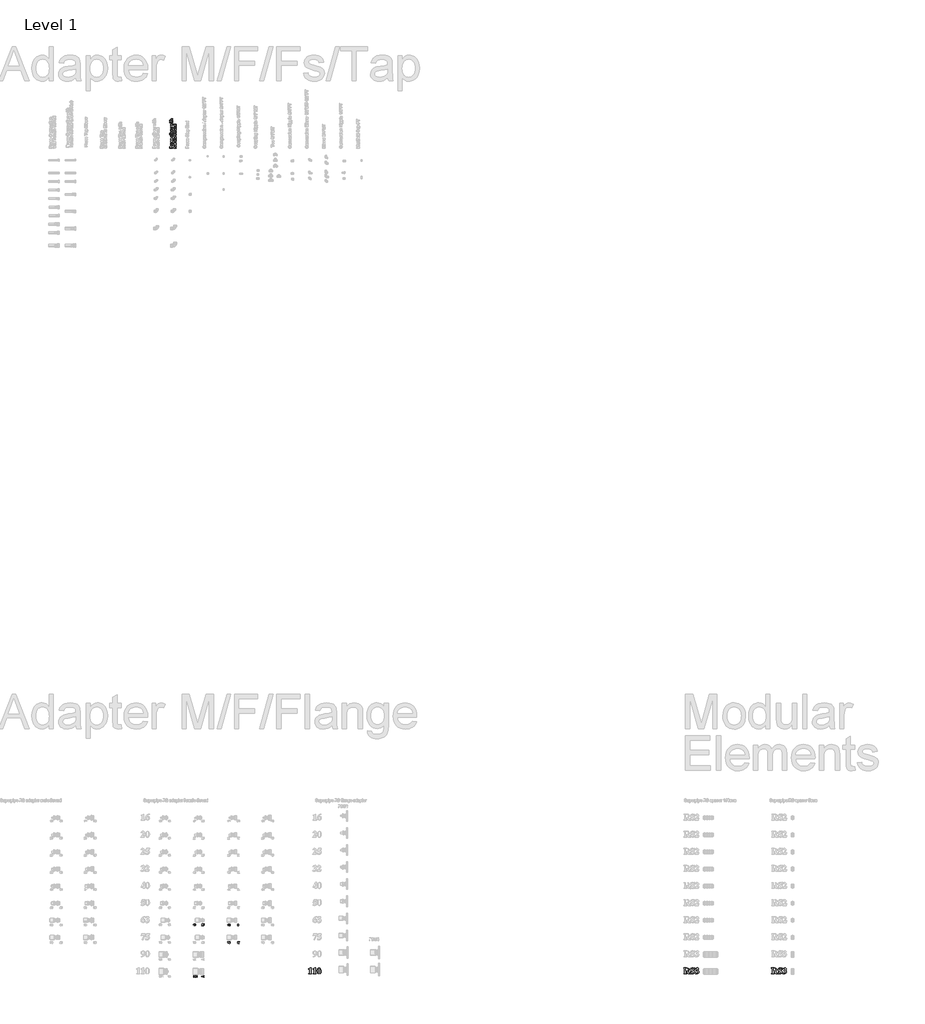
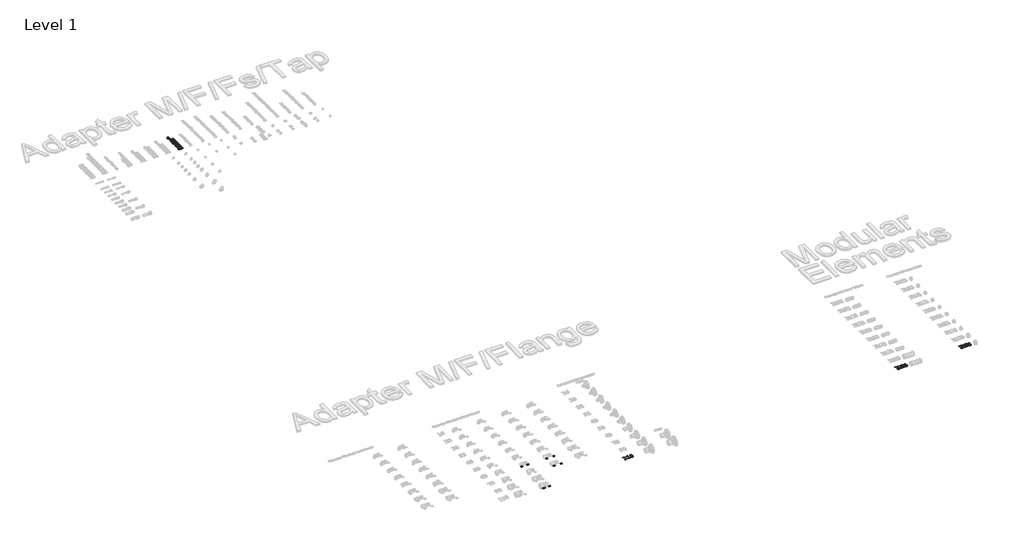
# One storey, part 45 of 57: 12 proxies.
"""IFC4 building model written with IfcOpenShell, lengths in millimetres."""

from ifc_helpers import new_model, si_unit, frame, origin, place, context, project, spatial, polyline, outline, extrude, element, save

model = new_model("IFC4")

# Units and contexts
model_context = context("Model", 3, world=origin())
ifc_project = project(units=[si_unit("LENGTHUNIT", "METRE", prefix="MILLI")], contexts=[model_context])

# Site, building, storey
site = spatial("IfcSite", under=ifc_project)
building = spatial("IfcBuilding", under=site)
storey = spatial("IfcBuildingStorey", under=building, Name="Level 1", Elevation=27.3876384)

# Proxies
placement = place(None, origin())
element("IfcBuildingElementProxy", 1, Name="100mm Arial", ObjectType="100mm Arial", at=placement, inside=storey, context=model_context, shape_type="SweptSolid", body=[
    extrude(outline(polyline([(34267.0644959, 16010.8916255), (34267.0644959, 15927.1351635), (34267.9233268, 15915.4387044), (34271.5358695, 15911.2945045), (34280.3422944, 15909.6859006), (34282.7688325, 15909.6859006), (34282.7688325, 15906.196048), (34226.9311912, 15906.196048), (34226.9311912, 15909.6859006), (34229.7394319, 15909.6859006), (34239.4455844, 15911.1581821), (34243.3580363, 15915.1933242), (34244.3804541, 15927.1351635), (34244.3804541, 15979.4829522), (34243.7261067, 15988.1394225), (34241.2995686, 15991.1248823), (34237.2098976, 15992.3790481), (34228.2398859, 15989.95251), (34226.9311912, 15993.4423626), (34264.5834288, 16010.8916255), (34267.0644959, 16010.8916255)])), frame((0.0, 0.0, 27.3876384), z_axis=(0.0, 0.0, 1.0), x_axis=(1.0, 0.0, 0.0)), (0.0, 0.0, 1.0), 2.0),
    extrude(outline(polyline([(34345.586179, 16010.8916255), (34345.586179, 15927.1351635), (34346.4450099, 15915.4387044), (34350.0575526, 15911.2945045), (34358.8639775, 15909.6859006), (34361.2905157, 15909.6859006), (34361.2905157, 15906.196048), (34305.4528743, 15906.196048), (34305.4528743, 15909.6859006), (34308.2611151, 15909.6859006), (34317.9672676, 15911.1581821), (34321.8797195, 15915.1933242), (34322.9021372, 15927.1351635), (34322.9021372, 15979.4829522), (34322.2477899, 15988.1394225), (34319.8212517, 15991.1248823), (34315.7315807, 15992.3790481), (34306.761569, 15989.95251), (34305.4528743, 15993.4423626), (34343.105112, 16010.8916255), (34345.586179, 16010.8916255)])), frame((0.0, 0.0, 27.3876384), z_axis=(0.0, 0.0, 1.0), x_axis=(1.0, 0.0, 0.0)), (0.0, 0.0, 1.0), 2.0),
    extrude(outline(polyline([(34446.791904, 15957.6713736), (34442.3477948, 15929.0982056), (34435.2317673, 15915.7658781), (34425.0893832, 15907.5047427), (34412.7385768, 15904.4511217), (34398.9563855, 15908.213619), (34388.0642284, 15919.0103504), (34382.0933088, 15932.6425871), (34378.7397786, 15956.4717368), (34383.5655903, 15987.0624758), (34388.554989, 15997.2491647), (34395.6164876, 16004.7434868), (34412.7385768, 16010.8916255), (34429.8742983, 16004.8252802), (34441.5843896, 15988.5074929), (34446.791904, 15957.6713736)]), holes=[polyline([(34424.1078622, 15957.6713736), (34423.753424, 15989.0255179), (34419.6364885, 16003.2303085), (34412.6840478, 16005.6568466), (34406.8494506, 16003.8301269), (34402.5416638, 15994.505677), (34401.4238204, 15947.8561632), (34403.1414822, 15918.6831767), (34406.8358183, 15911.498988), (34413.2020728, 15909.6859006), (34419.6364885, 15912.1124387), (34423.753424, 15925.1721214), (34424.1078622, 15957.6713736)])]), frame((0.0, 0.0, 27.3876384), z_axis=(0.0, 0.0, 1.0), x_axis=(1.0, 0.0, 0.0)), (0.0, 0.0, 1.0), 2.0),
])
element("IfcBuildingElementProxy", 2, Name="100mm Arial", ObjectType="100mm Arial", at=placement, inside=storey, context=model_context, shape_type="SweptSolid", body=[
    extrude(outline(polyline([(40858.2065597, 15953.3090579), (40858.2065597, 15923.6453109), (40859.2153452, 15914.034584), (40862.7460945, 15910.8719051), (40872.16597, 15909.6859006), (40872.16597, 15906.196048), (40819.8181813, 15906.196048), (40819.8181813, 15909.6859006), (40829.2789535, 15910.8991696), (40832.7688061, 15914.0618485), (40833.7775916, 15923.6453109), (40833.7775916, 15991.6974363), (40832.7688061, 16001.3081631), (40829.2380568, 16004.470842), (40819.8181813, 16005.6568466), (40819.8181813, 16009.1466992), (40867.3946872, 16009.1466992), (40894.5637349, 16006.6111032), (40908.6049386, 15997.2457566), (40914.044201, 15981.2278785), (40912.1288718, 15970.9968849), (40906.382884, 15962.7153011), (40892.6961184, 15955.7628605), (40917.1250865, 15920.946128), (40923.314122, 15912.3305545), (40929.7485377, 15909.6859006), (40929.7485377, 15906.196048), (40898.0126907, 15906.196048), (40864.9681491, 15953.3090579), (40858.2065597, 15953.3090579)]), holes=[polyline([(40858.2065597, 16003.9119203), (40858.2065597, 15958.5438367), (40862.541611, 15958.5438367), (40878.3686377, 15960.4932466), (40886.6161409, 15967.5138484), (40889.615233, 15980.7643825), (40888.2383771, 15991.0533131), (40884.1078094, 15998.2545421), (40876.9099884, 16002.4975758), (40866.3313728, 16003.9119203), (40858.2065597, 16003.9119203)])]), frame((0.0, 0.0, 27.3876384), z_axis=(0.0, 0.0, 1.0), x_axis=(1.0, 0.0, 0.0)), (0.0, 0.0, 1.0), 2.0),
    extrude(outline(polyline([(41004.7803682, 16010.8916255), (41004.7803682, 15975.9930996), (41001.2905157, 15975.9930996), (40997.275822, 15988.0678533), (40989.8667013, 15997.5184013), (40980.3854807, 16003.6222353), (40970.1544871, 16005.6568466), (40957.2038623, 16001.5535434), (40952.4325795, 15992.1064034), (40954.1775058, 15986.0809548), (40961.8933517, 15979.0739851), (40979.8879041, 15970.2402958), (40996.0012078, 15961.6792512), (41004.8621617, 15953.6089671), (41010.0151471, 15935.6962081), (41007.4863672, 15923.7816333), (40999.9000275, 15913.6665137), (40988.4148681, 15906.7549697), (40974.1896292, 15904.4511217), (40964.960605, 15905.5553328), (40954.0411834, 15909.7404295), (40948.0157348, 15911.4308268), (40943.8033737, 15909.713165), (40940.2180954, 15904.4511217), (40936.7282428, 15904.4511217), (40936.7282428, 15942.8395001), (40940.2180954, 15942.8395001), (40945.2926955, 15928.5904047), (40953.5913196, 15918.178784), (40963.8870663, 15911.8091214), (40974.9530344, 15909.6859006), (40989.0623994, 15914.2799643), (40994.3108105, 15924.9812701), (40992.1978138, 15931.9882397), (40985.7770303, 15938.4226554), (40970.5089253, 15946.3838816), (40949.1608427, 15958.0121795), (40939.9454507, 15968.7134853), (40936.7282428, 15981.718639), (40939.0559473, 15992.948194), (40946.0390605, 16002.3714776), (40956.5665552, 16008.7615885), (40969.5274042, 16010.8916255), (40979.5334659, 16009.6919887), (40988.4898454, 16006.3520907), (40995.8921499, 16003.9119203), (40999.1093578, 16005.1115571), (41001.2905157, 16010.8916255), (41004.7803682, 16010.8916255)])), frame((0.0, 0.0, 27.3876384), z_axis=(0.0, 0.0, 1.0), x_axis=(1.0, 0.0, 0.0)), (0.0, 0.0, 1.0), 2.0),
    extrude(outline(polyline([(41034.4441152, 15962.0336893), (41034.4441152, 15963.7786156), (41046.876715, 15968.5907951), (41052.8612669, 15975.379649), (41055.3832307, 15984.6359377), (41050.6801091, 15995.773475), (41038.9700178, 16000.4220677), (41028.9094271, 15997.9887135), (41020.4847049, 15990.6886508), (41018.7397786, 15991.6974363), (41033.1490527, 16006.0794459), (41052.7385768, 16010.8916255), (41062.7889433, 16009.4397923), (41070.9103483, 16005.0842927), (41076.2780414, 15998.7861993), (41078.0672725, 15991.506585), (41074.0593949, 15981.7322713), (41061.4904727, 15973.4575036), (41077.7128343, 15962.1700117), (41081.9047471, 15954.6109365), (41083.3020514, 15945.3478316), (41080.3097754, 15929.585558), (41071.3329476, 15916.3793288), (41057.3326405, 15907.4331734), (41039.269927, 15904.4511217), (41027.6688936, 15905.7325519), (41019.6940351, 15909.5768427), (41015.249926, 15918.8740281), (41017.8264187, 15925.9491589), (41023.7837061, 15928.8800898), (41028.6367824, 15927.7895108), (41037.4977362, 15921.0551859), (41051.7843202, 15914.9206794), (41061.7085885, 15919.3784208), (41065.8527885, 15930.679545), (41063.8522577, 15940.6890148), (41057.8506655, 15949.8873665), (41047.9979665, 15957.3203435), (41034.4441152, 15962.0336893)])), frame((0.0, 0.0, 27.3876384), z_axis=(0.0, 0.0, 1.0), x_axis=(1.0, 0.0, 0.0)), (0.0, 0.0, 1.0), 2.0),
])
element("IfcBuildingElementProxy", 3, Name="100mm Arial", ObjectType="100mm Arial", at=placement, inside=storey, context=model_context, shape_type="SweptSolid", body=[
    extrude(outline(polyline([(42398.2065597, 15953.3090579), (42398.2065597, 15923.6453109), (42399.2153452, 15914.034584), (42402.7460945, 15910.8719051), (42412.16597, 15909.6859006), (42412.16597, 15906.196048), (42359.8181813, 15906.196048), (42359.8181813, 15909.6859006), (42369.2789535, 15910.8991696), (42372.7688061, 15914.0618485), (42373.7775916, 15923.6453109), (42373.7775916, 15991.6974363), (42372.7688061, 16001.3081631), (42369.2380568, 16004.470842), (42359.8181813, 16005.6568466), (42359.8181813, 16009.1466992), (42407.3946872, 16009.1466992), (42434.5637349, 16006.6111032), (42448.6049386, 15997.2457566), (42454.044201, 15981.2278785), (42452.1288718, 15970.9968849), (42446.382884, 15962.7153011), (42432.6961184, 15955.7628605), (42457.1250865, 15920.946128), (42463.314122, 15912.3305545), (42469.7485377, 15909.6859006), (42469.7485377, 15906.196048), (42438.0126907, 15906.196048), (42404.9681491, 15953.3090579), (42398.2065597, 15953.3090579)]), holes=[polyline([(42398.2065597, 16003.9119203), (42398.2065597, 15958.5438367), (42402.541611, 15958.5438367), (42418.3686377, 15960.4932466), (42426.6161409, 15967.5138484), (42429.615233, 15980.7643825), (42428.2383771, 15991.0533131), (42424.1078094, 15998.2545421), (42416.9099884, 16002.4975758), (42406.3313728, 16003.9119203), (42398.2065597, 16003.9119203)])]), frame((0.0, 0.0, 27.3876384), z_axis=(0.0, 0.0, 1.0), x_axis=(1.0, 0.0, 0.0)), (0.0, 0.0, 1.0), 2.0),
    extrude(outline(polyline([(42544.7803682, 16010.8916255), (42544.7803682, 15975.9930996), (42541.2905157, 15975.9930996), (42537.275822, 15988.0678533), (42529.8667013, 15997.5184013), (42520.3854807, 16003.6222353), (42510.1544871, 16005.6568466), (42497.2038623, 16001.5535434), (42492.4325795, 15992.1064034), (42494.1775058, 15986.0809548), (42501.8933517, 15979.0739851), (42519.8879041, 15970.2402958), (42536.0012078, 15961.6792512), (42544.8621617, 15953.6089671), (42550.0151471, 15935.6962081), (42547.4863672, 15923.7816333), (42539.9000275, 15913.6665137), (42528.4148681, 15906.7549697), (42514.1896292, 15904.4511217), (42504.960605, 15905.5553328), (42494.0411834, 15909.7404295), (42488.0157348, 15911.4308268), (42483.8033737, 15909.713165), (42480.2180954, 15904.4511217), (42476.7282428, 15904.4511217), (42476.7282428, 15942.8395001), (42480.2180954, 15942.8395001), (42485.2926955, 15928.5904047), (42493.5913196, 15918.178784), (42503.8870663, 15911.8091214), (42514.9530344, 15909.6859006), (42529.0623994, 15914.2799643), (42534.3108105, 15924.9812701), (42532.1978138, 15931.9882397), (42525.7770303, 15938.4226554), (42510.5089253, 15946.3838816), (42489.1608427, 15958.0121795), (42479.9454507, 15968.7134853), (42476.7282428, 15981.718639), (42479.0559473, 15992.948194), (42486.0390605, 16002.3714776), (42496.5665552, 16008.7615885), (42509.5274042, 16010.8916255), (42519.5334659, 16009.6919887), (42528.4898454, 16006.3520907), (42535.8921499, 16003.9119203), (42539.1093578, 16005.1115571), (42541.2905157, 16010.8916255), (42544.7803682, 16010.8916255)])), frame((0.0, 0.0, 27.3876384), z_axis=(0.0, 0.0, 1.0), x_axis=(1.0, 0.0, 0.0)), (0.0, 0.0, 1.0), 2.0),
    extrude(outline(polyline([(42574.4441152, 15962.0336893), (42574.4441152, 15963.7786156), (42586.876715, 15968.5907951), (42592.8612669, 15975.379649), (42595.3832307, 15984.6359377), (42590.6801091, 15995.773475), (42578.9700178, 16000.4220677), (42568.9094271, 15997.9887135), (42560.4847049, 15990.6886508), (42558.7397786, 15991.6974363), (42573.1490527, 16006.0794459), (42592.7385768, 16010.8916255), (42602.7889433, 16009.4397923), (42610.9103483, 16005.0842927), (42616.2780414, 15998.7861993), (42618.0672725, 15991.506585), (42614.0593949, 15981.7322713), (42601.4904727, 15973.4575036), (42617.7128343, 15962.1700117), (42621.9047471, 15954.6109365), (42623.3020514, 15945.3478316), (42620.3097754, 15929.585558), (42611.3329476, 15916.3793288), (42597.3326405, 15907.4331734), (42579.269927, 15904.4511217), (42567.6688936, 15905.7325519), (42559.6940351, 15909.5768427), (42555.249926, 15918.8740281), (42557.8264187, 15925.9491589), (42563.7837061, 15928.8800898), (42568.6367824, 15927.7895108), (42577.4977362, 15921.0551859), (42591.7843202, 15914.9206794), (42601.7085885, 15919.3784208), (42605.8527885, 15930.679545), (42603.8522577, 15940.6890148), (42597.8506655, 15949.8873665), (42587.9979665, 15957.3203435), (42574.4441152, 15962.0336893)])), frame((0.0, 0.0, 27.3876384), z_axis=(0.0, 0.0, 1.0), x_axis=(1.0, 0.0, 0.0)), (0.0, 0.0, 1.0), 2.0),
])
element("IfcBuildingElementProxy", 4, Name="30mm Arial", ObjectType="30mm Arial", at=placement, inside=storey, context=model_context, shape_type="SweptSolid", body=[
    extrude(outline(polyline([(32826.5429, 16772.0640351), (32820.7128463, 16771.4415554), (32819.680441, 16774.0111819), (32817.5093532, 16774.84242), (32814.5184142, 16773.2292867), (32812.9773974, 16766.4541266), (32818.3064309, 16769.0123663), (32824.4667025, 16766.2795286), (32827.0287378, 16759.2272892), (32824.4097684, 16751.8676055), (32817.67636, 16749.0930161), (32810.4343401, 16752.67607), (32807.5952254, 16764.4196808), (32810.5595952, 16776.4897138), (32818.2608836, 16780.1866359), (32823.764515, 16778.1066428), (32826.5429, 16772.0640351)]), holes=[polyline([(32813.4252792, 16759.3563398), (32814.685421, 16755.7163519), (32817.5624918, 16754.437232), (32820.1586876, 16755.4848198), (32821.1986841, 16758.9236405), (32820.0789798, 16762.5256724), (32817.2816168, 16763.6681504), (32814.5449835, 16762.5750153), (32813.4252792, 16759.3563398)])]), frame((0.0, 0.0, 27.3876384), z_axis=(0.0, 0.0, 1.0), x_axis=(1.0, 0.0, 0.0)), (0.0, 0.0, 1.0), 2.0),
    extrude(outline(polyline([(32830.9154403, 16758.1341541), (32836.745494, 16758.8097723), (32838.0587743, 16755.560732), (32840.6473789, 16754.437232), (32843.4029903, 16755.7239431), (32844.518899, 16759.1893331), (32843.4978804, 16762.4611471), (32841.0041661, 16763.6681504), (32838.6888453, 16763.2354511), (32839.1974567, 16768.0406907), (32842.0707319, 16768.9971839), (32843.0613855, 16771.6996567), (32842.321242, 16773.9884083), (32840.3513215, 16774.84242), (32838.275124, 16773.8517664), (32837.2313318, 16770.9557175), (32831.4012781, 16771.8287074), (32833.0068202, 16776.4631446), (32836.0053505, 16779.1921867), (32840.3133654, 16780.1866359), (32846.8569934, 16777.4310246), (32848.8914393, 16772.3297276), (32844.5264902, 16765.8999678), (32848.7623886, 16763.3986622), (32850.3489527, 16758.7034953), (32847.5364072, 16751.9055616), (32840.5335107, 16749.0930161), (32833.948131, 16751.5943217), (32830.9154403, 16758.1341541)])), frame((0.0, 0.0, 27.3876384), z_axis=(0.0, 0.0, 1.0), x_axis=(1.0, 0.0, 0.0)), (0.0, 0.0, 1.0), 2.0),
])
element("IfcBuildingElementProxy", 5, Name="30mm Arial", ObjectType="30mm Arial", at=placement, inside=storey, context=model_context, shape_type="SweptSolid", body=[
    extrude(outline(polyline([(32976.3452254, 16758.1948838), (32981.6894414, 16758.8097723), (32983.1773196, 16755.6138705), (32986.0316168, 16754.437232), (32989.1554021, 16755.685987), (32990.4345219, 16759.4474344), (32989.2464967, 16762.9773498), (32986.1530762, 16764.1539882), (32981.886813, 16761.7247992), (32976.8310633, 16762.4763295), (32980.2319279, 16779.7007981), (32994.8070622, 16779.7007981), (32994.8070622, 16773.8707444), (32984.9460729, 16773.8707444), (32983.7694345, 16768.3063832), (32987.5270863, 16769.4982041), (32993.7215184, 16766.7387972), (32996.2645756, 16759.5764851), (32994.1466264, 16753.0252659), (32986.1227114, 16749.0930161), (32979.4386459, 16751.5601612), (32976.3452254, 16758.1948838)])), frame((0.0, 0.0, 27.3876384), z_axis=(0.0, 0.0, 1.0), x_axis=(1.0, 0.0, 0.0)), (0.0, 0.0, 1.0), 2.0),
    extrude(outline(polyline([(33009.3821965, 16780.1866359), (33016.1763346, 16777.0286902), (33019.0989527, 16764.6322348), (33016.1611522, 16752.2054146), (33009.3821965, 16749.0930161), (33002.3413439, 16752.5090632), (32999.6654403, 16764.6929645), (33002.6032408, 16777.0742375), (33009.3821965, 16780.1866359)]), holes=[polyline([(33009.3821965, 16774.84242), (33007.4388453, 16774.2009623), (33006.1179737, 16771.8970283), (33005.495494, 16764.6322348), (33006.0496528, 16757.6141558), (33007.4502321, 16755.0710985), (33009.3821965, 16754.437232), (33011.3255477, 16755.0786898), (33012.6464193, 16757.3826237), (33013.268899, 16764.6322348), (33012.7147402, 16771.6465182), (33011.3141609, 16774.2009623), (33009.3821965, 16774.84242)])]), frame((0.0, 0.0, 27.3876384), z_axis=(0.0, 0.0, 1.0), x_axis=(1.0, 0.0, 0.0)), (0.0, 0.0, 1.0), 2.0),
])
element("IfcBuildingElementProxy", 6, Name="30mm Arial", ObjectType="30mm Arial", at=placement, inside=storey, context=model_context, shape_type="SweptSolid", body=[
    extrude(outline(polyline([(32807.5952254, 16463.7207444), (32807.5952254, 16469.5507981), (32827.0287378, 16469.5507981), (32827.0287378, 16465.1782578), (32822.022331, 16458.2095218), (32818.1394242, 16448.5610865), (32816.8261438, 16439.4288539), (32810.9960901, 16439.4288539), (32813.6568112, 16452.1403447), (32820.3636504, 16463.7207444), (32807.5952254, 16463.7207444)])), frame((0.0, 0.0, 27.3876384), z_axis=(0.0, 0.0, 1.0), x_axis=(1.0, 0.0, 0.0)), (0.0, 0.0, 1.0), 2.0),
    extrude(outline(polyline([(32830.9154403, 16448.0448838), (32836.2596562, 16448.6597723), (32837.7475345, 16445.4638705), (32840.6018316, 16444.287232), (32843.7256169, 16445.535987), (32845.0047368, 16449.2974344), (32843.8167115, 16452.8273498), (32840.7232911, 16454.0039882), (32836.4570278, 16451.5747992), (32831.4012781, 16452.3263295), (32834.8021428, 16469.5507981), (32849.3772771, 16469.5507981), (32849.3772771, 16463.7207444), (32839.5162878, 16463.7207444), (32838.3396493, 16458.1563832), (32842.0973011, 16459.3482041), (32848.2917332, 16456.5887972), (32850.8347905, 16449.4264851), (32848.7168413, 16442.8752659), (32840.6929262, 16438.9430161), (32834.0088607, 16441.4101612), (32830.9154403, 16448.0448838)])), frame((0.0, 0.0, 27.3876384), z_axis=(0.0, 0.0, 1.0), x_axis=(1.0, 0.0, 0.0)), (0.0, 0.0, 1.0), 2.0),
])
element("IfcBuildingElementProxy", 7, Name="30mm Arial", ObjectType="30mm Arial", at=placement, inside=storey, context=model_context, shape_type="SweptSolid", body=[
    extrude(outline(polyline([(32976.3452254, 16448.0448838), (32981.6894414, 16448.6597723), (32983.1773196, 16445.4638705), (32986.0316168, 16444.287232), (32989.1554021, 16445.535987), (32990.4345219, 16449.2974344), (32989.2464967, 16452.8273498), (32986.1530762, 16454.0039882), (32981.886813, 16451.5747992), (32976.8310633, 16452.3263295), (32980.2319279, 16469.5507981), (32994.8070622, 16469.5507981), (32994.8070622, 16463.7207444), (32984.9460729, 16463.7207444), (32983.7694345, 16458.1563832), (32987.5270863, 16459.3482041), (32993.7215184, 16456.5887972), (32996.2645756, 16449.4264851), (32994.1466264, 16442.8752659), (32986.1227114, 16438.9430161), (32979.4386459, 16441.4101612), (32976.3452254, 16448.0448838)])), frame((0.0, 0.0, 27.3876384), z_axis=(0.0, 0.0, 1.0), x_axis=(1.0, 0.0, 0.0)), (0.0, 0.0, 1.0), 2.0),
    extrude(outline(polyline([(33009.3821965, 16470.0366359), (33016.1763346, 16466.8786902), (33019.0989527, 16454.4822348), (33016.1611522, 16442.0554146), (33009.3821965, 16438.9430161), (33002.3413439, 16442.3590632), (32999.6654403, 16454.5429645), (33002.6032408, 16466.9242375), (33009.3821965, 16470.0366359)]), holes=[polyline([(33009.3821965, 16464.69242), (33007.4388453, 16464.0509623), (33006.1179737, 16461.7470283), (33005.495494, 16454.4822348), (33006.0496528, 16447.4641558), (33007.4502321, 16444.9210985), (33009.3821965, 16444.287232), (33011.3255477, 16444.9286898), (33012.6464193, 16447.2326237), (33013.268899, 16454.4822348), (33012.7147402, 16461.4965182), (33011.3141609, 16464.0509623), (33009.3821965, 16464.69242)])]), frame((0.0, 0.0, 27.3876384), z_axis=(0.0, 0.0, 1.0), x_axis=(1.0, 0.0, 0.0)), (0.0, 0.0, 1.0), 2.0),
])
element("IfcBuildingElementProxy", 8, Name="30mm Arial", ObjectType="30mm Arial", at=placement, inside=storey, context=model_context, shape_type="SweptSolid", body=[
    extrude(outline(polyline([(32221.5429, 16776.0640351), (32215.7128463, 16775.4415554), (32214.680441, 16778.0111819), (32212.5093532, 16778.84242), (32209.5184142, 16777.2292867), (32207.9773974, 16770.4541266), (32213.3064309, 16773.0123663), (32219.4667025, 16770.2795286), (32222.0287378, 16763.2272892), (32219.4097684, 16755.8676055), (32212.67636, 16753.0930161), (32205.4343401, 16756.67607), (32202.5952254, 16768.4196808), (32205.5595952, 16780.4897138), (32213.2608836, 16784.1866359), (32218.764515, 16782.1066428), (32221.5429, 16776.0640351)]), holes=[polyline([(32208.4252792, 16763.3563398), (32209.685421, 16759.7163519), (32212.5624918, 16758.437232), (32215.1586876, 16759.4848198), (32216.1986841, 16762.9236405), (32215.0789798, 16766.5256724), (32212.2816168, 16767.6681504), (32209.5449835, 16766.5750153), (32208.4252792, 16763.3563398)])]), frame((0.0, 0.0, 27.3876384), z_axis=(0.0, 0.0, 1.0), x_axis=(1.0, 0.0, 0.0)), (0.0, 0.0, 1.0), 2.0),
    extrude(outline(polyline([(32225.9154403, 16762.1341541), (32231.745494, 16762.8097723), (32233.0587743, 16759.560732), (32235.6473789, 16758.437232), (32238.4029903, 16759.7239431), (32239.518899, 16763.1893331), (32238.4978804, 16766.4611471), (32236.0041661, 16767.6681504), (32233.6888453, 16767.2354511), (32234.1974567, 16772.0406907), (32237.0707319, 16772.9971839), (32238.0613855, 16775.6996567), (32237.321242, 16777.9884083), (32235.3513215, 16778.84242), (32233.275124, 16777.8517664), (32232.2313318, 16774.9557175), (32226.4012781, 16775.8287074), (32228.0068202, 16780.4631446), (32231.0053505, 16783.1921867), (32235.3133654, 16784.1866359), (32241.8569934, 16781.4310246), (32243.8914393, 16776.3297276), (32239.5264902, 16769.8999678), (32243.7623886, 16767.3986622), (32245.3489527, 16762.7034953), (32242.5364072, 16755.9055616), (32235.5335107, 16753.0930161), (32228.948131, 16755.5943217), (32225.9154403, 16762.1341541)])), frame((0.0, 0.0, 27.3876384), z_axis=(0.0, 0.0, 1.0), x_axis=(1.0, 0.0, 0.0)), (0.0, 0.0, 1.0), 2.0),
])
element("IfcBuildingElementProxy", 9, Name="30mm Arial", ObjectType="30mm Arial", at=placement, inside=storey, context=model_context, shape_type="SweptSolid", body=[
    extrude(outline(polyline([(32370.7787378, 16759.4089076), (32370.7787378, 16753.5788539), (32351.3452254, 16753.5788539), (32353.2050733, 16759.298835), (32359.316002, 16766.4687383), (32363.8251842, 16771.3574813), (32364.9486841, 16774.864623), (32364.0035777, 16777.8138103), (32361.3959951, 16778.84242), (32358.7846169, 16777.8289927), (32357.661117, 16774.4698797), (32351.8310633, 16775.0012648), (32354.9586442, 16782.0497087), (32361.5250458, 16784.1866359), (32368.3115927, 16781.7916074), (32370.7787378, 16775.8362986), (32370.1031196, 16771.979961), (32367.9623968, 16768.146397), (32364.3375912, 16764.3204243), (32361.0088431, 16761.003063), (32359.9157081, 16759.4089076), (32370.7787378, 16759.4089076)])), frame((0.0, 0.0, 27.3876384), z_axis=(0.0, 0.0, 1.0), x_axis=(1.0, 0.0, 0.0)), (0.0, 0.0, 1.0), 2.0),
    extrude(outline(polyline([(32374.6654403, 16762.1948838), (32380.0096562, 16762.8097723), (32381.4975345, 16759.6138705), (32384.3518316, 16758.437232), (32387.4756169, 16759.685987), (32388.7547368, 16763.4474344), (32387.5667115, 16766.9773498), (32384.4732911, 16768.1539882), (32380.2070278, 16765.7247992), (32375.1512781, 16766.4763295), (32378.5521428, 16783.7007981), (32393.1272771, 16783.7007981), (32393.1272771, 16777.8707444), (32383.2662878, 16777.8707444), (32382.0896493, 16772.3063832), (32385.8473011, 16773.4982041), (32392.0417332, 16770.7387972), (32394.5847905, 16763.5764851), (32392.4668413, 16757.0252659), (32384.4429262, 16753.0930161), (32377.7588607, 16755.5601612), (32374.6654403, 16762.1948838)])), frame((0.0, 0.0, 27.3876384), z_axis=(0.0, 0.0, 1.0), x_axis=(1.0, 0.0, 0.0)), (0.0, 0.0, 1.0), 2.0),
])
element("IfcBuildingElementProxy", 10, Name="30mm Arial", ObjectType="30mm Arial", at=placement, inside=storey, context=model_context, shape_type="SweptSolid", body=[
    extrude(outline(polyline([(32217.1703597, 15843.5788539), (32211.340306, 15843.5788539), (32211.340306, 15865.4567378), (32204.0527389, 15860.5831773), (32204.0527389, 15866.413231), (32208.9187082, 15869.2713237), (32212.5245357, 15874.1866359), (32217.1703597, 15874.1866359), (32217.1703597, 15843.5788539)])), frame((0.0, 0.0, 27.3876384), z_axis=(0.0, 0.0, 1.0), x_axis=(1.0, 0.0, 0.0)), (0.0, 0.0, 1.0), 2.0),
    extrude(outline(polyline([(32240.4905746, 15843.5788539), (32234.6605209, 15843.5788539), (32234.6605209, 15865.4567378), (32227.3729537, 15860.5831773), (32227.3729537, 15866.413231), (32232.238923, 15869.2713237), (32235.8447505, 15874.1866359), (32240.4905746, 15874.1866359), (32240.4905746, 15843.5788539)])), frame((0.0, 0.0, 27.3876384), z_axis=(0.0, 0.0, 1.0), x_axis=(1.0, 0.0, 0.0)), (0.0, 0.0, 1.0), 2.0),
    extrude(outline(polyline([(32258.9524113, 15874.1866359), (32265.7465495, 15871.0286902), (32268.6691675, 15858.6322348), (32265.731367, 15846.2054146), (32258.9524113, 15843.0930161), (32251.9115587, 15846.5090632), (32249.2356552, 15858.6929645), (32252.1734557, 15871.0742375), (32258.9524113, 15874.1866359)]), holes=[polyline([(32258.9524113, 15868.84242), (32257.0090601, 15868.2009623), (32255.6881886, 15865.8970283), (32255.0657089, 15858.6322348), (32255.6198676, 15851.6141558), (32257.0204469, 15849.0710985), (32258.9524113, 15848.437232), (32260.8957626, 15849.0786898), (32262.2166341, 15851.3826237), (32262.8391138, 15858.6322348), (32262.2849551, 15865.6465182), (32260.8843758, 15868.2009623), (32258.9524113, 15868.84242)])]), frame((0.0, 0.0, 27.3876384), z_axis=(0.0, 0.0, 1.0), x_axis=(1.0, 0.0, 0.0)), (0.0, 0.0, 1.0), 2.0),
])
element("IfcBuildingElementProxy", 11, Name="30mm Arial", ObjectType="30mm Arial", at=placement, inside=storey, context=model_context, shape_type="SweptSolid", body=[
    extrude(outline(polyline([(32356.4617049, 15859.9986536), (32352.9317895, 15862.6328055), (32351.8310633, 15866.3145452), (32354.233683, 15871.9586141), (32361.0619816, 15874.1866359), (32367.8713022, 15871.9586141), (32370.2929, 15866.3145452), (32369.0669187, 15862.5303241), (32365.6167111, 15859.9986536), (32369.4616619, 15857.0380795), (32370.7787378, 15852.551671), (32368.1673596, 15845.7195768), (32361.2213972, 15843.0930161), (32354.5107624, 15845.2641038), (32351.3452254, 15852.3011609), (32352.578798, 15856.8217298), (32356.4617049, 15859.9986536)]), holes=[polyline([(32357.1752792, 15852.7945899), (32358.3063703, 15848.8737269), (32361.1303026, 15847.4655564), (32363.8669359, 15848.8205884), (32364.9486841, 15852.7262689), (32363.8479578, 15856.3131184), (32361.0543904, 15857.6681504), (32358.135568, 15856.1309292), (32357.1752792, 15852.7945899)]), polyline([(32357.661117, 15865.957758), (32358.5834497, 15863.0768916), (32361.039208, 15862.0406907), (32363.5291268, 15863.0882785), (32364.4628463, 15865.9805317), (32363.5405136, 15868.7665079), (32361.0999377, 15869.8140956), (32358.5948365, 15868.7589167), (32357.661117, 15865.957758)])]), frame((0.0, 0.0, 27.3876384), z_axis=(0.0, 0.0, 1.0), x_axis=(1.0, 0.0, 0.0)), (0.0, 0.0, 1.0), 2.0),
    extrude(outline(polyline([(32384.3821965, 15874.1866359), (32391.1763346, 15871.0286902), (32394.0989527, 15858.6322348), (32391.1611522, 15846.2054146), (32384.3821965, 15843.0930161), (32377.3413439, 15846.5090632), (32374.6654403, 15858.6929645), (32377.6032408, 15871.0742375), (32384.3821965, 15874.1866359)]), holes=[polyline([(32384.3821965, 15868.84242), (32382.4388453, 15868.2009623), (32381.1179737, 15865.8970283), (32380.495494, 15858.6322348), (32381.0496528, 15851.6141558), (32382.4502321, 15849.0710985), (32384.3821965, 15848.437232), (32386.3255477, 15849.0786898), (32387.6464193, 15851.3826237), (32388.268899, 15858.6322348), (32387.7147402, 15865.6465182), (32386.3141609, 15868.2009623), (32384.3821965, 15868.84242)])]), frame((0.0, 0.0, 27.3876384), z_axis=(0.0, 0.0, 1.0), x_axis=(1.0, 0.0, 0.0)), (0.0, 0.0, 1.0), 2.0),
])
element("IfcBuildingElementProxy", 12, Name="50mm Arial", ObjectType="50mm Arial", at=placement, inside=storey, context=model_context, shape_type="SweptSolid", body=[
    extrude(outline(polyline([(31839.1417262, 30406.8112945), (31788.9135711, 30406.8112945), (31788.9135711, 30425.4261235), (31789.3918177, 30432.9309162), (31791.7401311, 30439.0316259), (31796.5961734, 30442.9863574), (31803.4449099, 30444.4824108), (31814.2974288, 30440.4418402), (31818.7365382, 30425.8553191), (31818.7365382, 30413.0898139), (31839.1417262, 30413.0898139), (31839.1417262, 30406.8112945)]), holes=[polyline([(31812.4580188, 30413.0898139), (31812.4580188, 30426.2232011), (31810.152625, 30435.4693019), (31803.6656391, 30438.2038914), (31798.4662402, 30436.591342), (31795.6212861, 30432.3545677), (31795.1920905, 30426.0760483), (31795.1920905, 30413.0898139), (31812.4580188, 30413.0898139)])]), frame((0.0, 0.0, 27.3876384), z_axis=(0.0, 0.0, 1.0), x_axis=(1.0, 0.0, 0.0)), (0.0, 0.0, 1.0), 2.0),
    extrude(outline(polyline([(31839.1417262, 30452.33056), (31802.2554248, 30452.33056), (31802.2554248, 30457.8242645), (31807.7123411, 30457.8242645), (31802.6846205, 30461.7238137), (31801.4706099, 30465.6478883), (31803.4081217, 30471.9509331), (31809.0367162, 30469.8540057), (31807.7491293, 30465.4394218), (31808.9876653, 30461.8893606), (31812.4212306, 30459.6268863), (31819.754345, 30458.6090794), (31839.1417262, 30458.6090794), (31839.1417262, 30452.33056)])), frame((0.0, 0.0, 27.3876384), z_axis=(0.0, 0.0, 1.0), x_axis=(1.0, 0.0, 0.0)), (0.0, 0.0, 1.0), 2.0),
    extrude(outline(polyline([(31828.1543173, 30501.7003238), (31828.9391322, 30507.8562159), (31837.0447988, 30502.0988626), (31839.9265411, 30491.3751025), (31834.9540028, 30478.3398171), (31821.0051438, 30473.520563), (31806.5964323, 30478.388868), (31801.4706099, 30491.0194832), (31806.5841696, 30503.2883477), (31820.9683556, 30508.0524196), (31822.6606128, 30508.0156314), (31822.6606128, 30479.7990824), (31830.8153304, 30483.4104573), (31833.6480217, 30491.4977298), (31832.3359093, 30497.6536219), (31828.1543173, 30501.7003238)]), holes=[polyline([(31816.3820934, 30479.7990824), (31816.3820934, 30501.7739002), (31810.6921852, 30499.2600399), (31807.7491293, 30490.9949577), (31810.0974427, 30483.2633045), (31816.3820934, 30479.7990824)])]), frame((0.0, 0.0, 27.3876384), z_axis=(0.0, 0.0, 1.0), x_axis=(1.0, 0.0, 0.0)), (0.0, 0.0, 1.0), 2.0),
    extrude(outline(polyline([(31828.1543173, 30511.9764942), (31827.3695023, 30518.2550136), (31832.0293409, 30521.1612813), (31833.6480217, 30527.8199455), (31832.164231, 30534.2210922), (31828.6816148, 30536.3057568), (31825.8611862, 30534.2088294), (31824.0708271, 30527.7463691), (31820.9990124, 30518.2918018), (31817.412163, 30514.1653921), (31812.3476542, 30512.7613091), (31807.6694215, 30513.8894806), (31804.0948348, 30516.9674266), (31802.2370307, 30520.9589462), (31801.4706099, 30526.3606802), (31802.7030146, 30534.000363), (31806.038478, 30538.8564053), (31811.6732039, 30541.0146464), (31812.4580188, 30534.736127), (31808.9937967, 30532.3755508), (31807.7491293, 30526.8511895), (31808.9386144, 30520.8424503), (31811.7099921, 30519.0398285), (31813.5371393, 30519.7878552), (31814.9228282, 30522.1300373), (31816.2594661, 30527.5379026), (31819.2147848, 30536.7533466), (31822.5625109, 30541.0330404), (31828.0194272, 30542.5842762), (31834.0281664, 30540.7632603), (31838.3875681, 30535.5086792), (31839.9265411, 30527.7341063), (31836.9589597, 30516.7834856), (31828.1543173, 30511.9764942)])), frame((0.0, 0.0, 27.3876384), z_axis=(0.0, 0.0, 1.0), x_axis=(1.0, 0.0, 0.0)), (0.0, 0.0, 1.0), 2.0),
    extrude(outline(polyline([(31828.1543173, 30547.2931657), (31827.3695023, 30553.5716851), (31832.0293409, 30556.4779529), (31833.6480217, 30563.136617), (31832.164231, 30569.5377637), (31828.6816148, 30571.6224283), (31825.8611862, 30569.525501), (31824.0708271, 30563.0630406), (31820.9990124, 30553.6084733), (31817.412163, 30549.4820636), (31812.3476542, 30548.0779807), (31807.6694215, 30549.2061521), (31804.0948348, 30552.2840981), (31802.2370307, 30556.2756178), (31801.4706099, 30561.6773517), (31802.7030146, 30569.3170345), (31806.038478, 30574.1730768), (31811.6732039, 30576.3313179), (31812.4580188, 30570.0527985), (31808.9937967, 30567.6922224), (31807.7491293, 30562.1678611), (31808.9386144, 30556.1591218), (31811.7099921, 30554.3565), (31813.5371393, 30555.1045268), (31814.9228282, 30557.4467088), (31816.2594661, 30562.8545741), (31819.2147848, 30572.0700181), (31822.5625109, 30576.349712), (31828.0194272, 30577.9009477), (31834.0281664, 30576.0799319), (31838.3875681, 30570.8253507), (31839.9265411, 30563.0507779), (31836.9589597, 30552.1001571), (31828.1543173, 30547.2931657)])), frame((0.0, 0.0, 27.3876384), z_axis=(0.0, 0.0, 1.0), x_axis=(1.0, 0.0, 0.0)), (0.0, 0.0, 1.0), 2.0),
    extrude(outline(polyline([(31828.1543173, 30630.4099712), (31828.9391322, 30636.5658632), (31837.0447988, 30630.80851), (31839.9265411, 30620.0847498), (31834.9540028, 30607.0494645), (31821.0051438, 30602.2302103), (31806.5964323, 30607.0985154), (31801.4706099, 30619.7291306), (31806.5841696, 30631.9979951), (31820.9683556, 30636.762067), (31822.6606128, 30636.7252788), (31822.6606128, 30608.5087297), (31830.8153304, 30612.1201047), (31833.6480217, 30620.2073772), (31832.3359093, 30626.3632692), (31828.1543173, 30630.4099712)]), holes=[polyline([(31816.3820934, 30608.5087297), (31816.3820934, 30630.4835476), (31810.6921852, 30627.9696873), (31807.7491293, 30619.7046051), (31810.0974427, 30611.9729519), (31816.3820934, 30608.5087297)])]), frame((0.0, 0.0, 27.3876384), z_axis=(0.0, 0.0, 1.0), x_axis=(1.0, 0.0, 0.0)), (0.0, 0.0, 1.0), 2.0),
    extrude(outline(polyline([(31839.1417262, 30643.0405863), (31788.9135711, 30643.0405863), (31788.9135711, 30649.3191057), (31839.1417262, 30649.3191057), (31839.1417262, 30643.0405863)])), frame((0.0, 0.0, 27.3876384), z_axis=(0.0, 0.0, 1.0), x_axis=(1.0, 0.0, 0.0)), (0.0, 0.0, 1.0), 2.0),
    extrude(outline(polyline([(31839.1417262, 30665.0154042), (31839.1417262, 30658.7368848), (31788.9135711, 30658.7368848), (31788.9135711, 30665.0154042), (31807.5406628, 30665.0154042), (31801.4706099, 30674.8746417), (31802.8379046, 30681.1654238), (31806.6822715, 30686.0459916), (31812.6603539, 30689.0442298), (31820.1467525, 30690.1294817), (31834.7639304, 30685.63519), (31839.9265411, 30674.8378535), (31838.2618751, 30669.2552442), (31833.267877, 30665.0154042), (31839.1417262, 30665.0154042)]), holes=[polyline([(31820.4410581, 30665.0154042), (31829.221175, 30666.7321868), (31833.6480217, 30674.2982932), (31830.3861347, 30681.018271), (31820.6617873, 30683.8509623), (31810.9006517, 30681.1347669), (31807.7491293, 30674.5680733), (31811.0110163, 30667.8480956), (31820.4410581, 30665.0154042)])]), frame((0.0, 0.0, 27.3876384), z_axis=(0.0, 0.0, 1.0), x_axis=(1.0, 0.0, 0.0)), (0.0, 0.0, 1.0), 2.0),
    extrude(outline(polyline([(31820.6985755, 30695.6231862), (31811.8050283, 30696.9812839), (31805.5541, 30701.055577), (31801.4706099, 30712.1165623), (31806.4431482, 30723.9807567), (31820.1835407, 30728.585413), (31831.3548906, 30726.5497993), (31837.6763296, 30720.6207678), (31839.9265411, 30712.1165623), (31834.9723969, 30700.1787916), (31820.6985755, 30695.6231862)]), holes=[polyline([(31820.6863128, 30701.9017056), (31830.4167915, 30704.8079733), (31833.6480217, 30712.1165623), (31830.3983974, 30719.4006258), (31820.490109, 30722.3068936), (31810.9803594, 30719.3822317), (31807.7491293, 30712.1165623), (31810.9680967, 30704.8079733), (31820.6863128, 30701.9017056)])]), frame((0.0, 0.0, 27.3876384), z_axis=(0.0, 0.0, 1.0), x_axis=(1.0, 0.0, 0.0)), (0.0, 0.0, 1.0), 2.0),
    extrude(outline(polyline([(31839.1417262, 30741.7678511), (31802.2554248, 30730.5474503), (31802.2554248, 30737.0712243), (31823.7765215, 30743.4355828), (31831.4652552, 30745.3363065), (31824.0585644, 30746.8936736), (31802.2554248, 30751.9581824), (31802.2554248, 30759.4384496), (31823.9972507, 30764.478433), (31830.7049658, 30765.8641218), (31823.6293687, 30767.8506846), (31802.2554248, 30774.2273058), (31802.2554248, 30780.7756053), (31839.1417262, 30769.4693654), (31839.1417262, 30761.8787335), (31817.5102649, 30757.0594794), (31810.7657616, 30755.6615278), (31839.1417262, 30749.4443221), (31839.1417262, 30741.7678511)])), frame((0.0, 0.0, 27.3876384), z_axis=(0.0, 0.0, 1.0), x_axis=(1.0, 0.0, 0.0)), (0.0, 0.0, 1.0), 2.0),
    extrude(outline(polyline([(31839.1417262, 30810.8315643), (31802.2554248, 30799.6111635), (31802.2554248, 30806.1349375), (31823.7765215, 30812.4992961), (31831.4652552, 30814.4000197), (31824.0585644, 30815.9573868), (31802.2554248, 30821.0218956), (31802.2554248, 30828.5021628), (31823.9972507, 30833.5421462), (31830.7049658, 30834.927835), (31823.6293687, 30836.9143978), (31802.2554248, 30843.2910191), (31802.2554248, 30849.8393186), (31839.1417262, 30838.5330786), (31839.1417262, 30830.9424467), (31817.5102649, 30826.1231926), (31810.7657616, 30824.725241), (31839.1417262, 30818.5080353), (31839.1417262, 30810.8315643)])), frame((0.0, 0.0, 27.3876384), z_axis=(0.0, 0.0, 1.0), x_axis=(1.0, 0.0, 0.0)), (0.0, 0.0, 1.0), 2.0),
    extrude(outline(polyline([(31839.1417262, 30854.1558006), (31802.2554248, 30854.1558006), (31802.2554248, 30860.43432), (31839.1417262, 30860.43432), (31839.1417262, 30854.1558006)])), frame((0.0, 0.0, 27.3876384), z_axis=(0.0, 0.0, 1.0), x_axis=(1.0, 0.0, 0.0)), (0.0, 0.0, 1.0), 2.0),
    extrude(outline(polyline([(31795.1920905, 30854.1558006), (31788.9135711, 30854.1558006), (31788.9135711, 30860.43432), (31795.1920905, 30860.43432), (31795.1920905, 30854.1558006)])), frame((0.0, 0.0, 27.3876384), z_axis=(0.0, 0.0, 1.0), x_axis=(1.0, 0.0, 0.0)), (0.0, 0.0, 1.0), 2.0),
    extrude(outline(polyline([(31833.9055391, 30883.1939528), (31839.3256672, 30883.9787677), (31839.9265411, 30879.2821409), (31838.8842088, 30874.0214284), (31836.1496193, 30871.3972035), (31829.0249713, 30870.636914), (31808.5339442, 30870.636914), (31808.5339442, 30865.9280245), (31802.2554248, 30865.9280245), (31802.2554248, 30870.636914), (31793.2913668, 30870.636914), (31789.6002842, 30876.9154334), (31802.2554248, 30876.9154334), (31802.2554248, 30883.1939528), (31808.5339442, 30883.1939528), (31808.5339442, 30876.9154334), (31828.8410303, 30876.9154334), (31832.0783919, 30877.2465272), (31833.6480217, 30880.4593633), (31833.9055391, 30883.1939528)])), frame((0.0, 0.0, 27.3876384), z_axis=(0.0, 0.0, 1.0), x_axis=(1.0, 0.0, 0.0)), (0.0, 0.0, 1.0), 2.0),
    extrude(outline(polyline([(31839.1417262, 30889.4724722), (31788.9135711, 30889.4724722), (31788.9135711, 30895.7509916), (31807.3812473, 30895.7509916), (31801.4706099, 30906.6770868), (31803.0831593, 30913.7281584), (31807.5406628, 30918.0078523), (31815.7934822, 30919.2954393), (31839.1417262, 30919.2954393), (31839.1417262, 30913.0169199), (31816.4434071, 30913.0169199), (31809.8215312, 30911.0180944), (31807.7491293, 30905.3527116), (31809.1470808, 30900.2084951), (31812.9362654, 30896.7749298), (31819.5458786, 30895.7509916), (31839.1417262, 30895.7509916), (31839.1417262, 30889.4724722)])), frame((0.0, 0.0, 27.3876384), z_axis=(0.0, 0.0, 1.0), x_axis=(1.0, 0.0, 0.0)), (0.0, 0.0, 1.0), 2.0),
    extrude(outline(polyline([(31900.1291351, 30407.5961094), (31869.5213531, 30407.5961094), (31869.5213531, 30402.102405), (31863.2428337, 30402.102405), (31863.2428337, 30407.5961094), (31859.5272256, 30407.5961094), (31854.2910385, 30408.258297), (31850.5509049, 30411.4711331), (31849.1161651, 30417.7987034), (31849.8028782, 30423.5253998), (31855.6889901, 30422.6056948), (31855.3946845, 30418.9881885), (31856.4370168, 30415.0334571), (31860.3243032, 30413.8746288), (31863.2428337, 30413.8746288), (31863.2428337, 30420.9379631), (31869.5213531, 30420.9379631), (31869.5213531, 30413.8746288), (31900.1291351, 30413.8746288), (31900.1291351, 30407.5961094)])), frame((0.0, 0.0, 27.3876384), z_axis=(0.0, 0.0, 1.0), x_axis=(1.0, 0.0, 0.0)), (0.0, 0.0, 1.0), 2.0),
    extrude(outline(polyline([(31889.1417262, 30452.2569836), (31889.9265411, 30458.4128757), (31898.0322077, 30452.6555225), (31900.91395, 30441.9317623), (31895.9414117, 30428.896477), (31881.9925527, 30424.0772228), (31867.5838413, 30428.9455279), (31862.4580188, 30441.5761431), (31867.5715785, 30453.8450076), (31881.9557645, 30458.6090794), (31883.6480217, 30458.5722912), (31883.6480217, 30430.3557422), (31891.8027393, 30433.9671171), (31894.6354306, 30442.0543896), (31893.3233182, 30448.2102817), (31889.1417262, 30452.2569836)]), holes=[polyline([(31877.3695023, 30430.3557422), (31877.3695023, 30452.33056), (31871.6795941, 30449.8166997), (31868.7365382, 30441.5516176), (31871.0848516, 30433.8199643), (31877.3695023, 30430.3557422)])]), frame((0.0, 0.0, 27.3876384), z_axis=(0.0, 0.0, 1.0), x_axis=(1.0, 0.0, 0.0)), (0.0, 0.0, 1.0), 2.0),
    extrude(outline(polyline([(31900.1291351, 30464.8875988), (31863.2428337, 30464.8875988), (31863.2428337, 30471.1661182), (31869.3128866, 30471.1661182), (31864.3403483, 30475.4826003), (31862.4580188, 30481.6262296), (31864.3771365, 30487.9170117), (31869.754345, 30491.3751025), (31864.2821004, 30496.2740644), (31862.4580188, 30502.4606133), (31865.4930453, 30510.6705131), (31874.8433793, 30513.546124), (31900.1291351, 30513.546124), (31900.1291351, 30507.2676047), (31877.5411806, 30507.2676047), (31872.2988622, 30506.6851248), (31869.7175568, 30504.5759347), (31868.7365382, 30500.9890853), (31871.2503985, 30494.8147991), (31879.3070142, 30492.3561211), (31900.1291351, 30492.3561211), (31900.1291351, 30486.0776017), (31876.8422048, 30486.0776017), (31870.7598892, 30484.6244679), (31868.7365382, 30479.860396), (31870.0854388, 30475.2128201), (31874.0340389, 30472.1226114), (31881.5265689, 30471.1661182), (31900.1291351, 30471.1661182), (31900.1291351, 30464.8875988)])), frame((0.0, 0.0, 27.3876384), z_axis=(0.0, 0.0, 1.0), x_axis=(1.0, 0.0, 0.0)), (0.0, 0.0, 1.0), 2.0),
    extrude(outline(polyline([(31895.4202456, 30546.5083508), (31899.675414, 30540.4199038), (31900.91395, 30533.6937946), (31897.9341059, 30524.5764525), (31890.3189486, 30521.3942733), (31885.3525416, 30522.5960211), (31881.7472981, 30525.7536749), (31879.6871589, 30530.1498648), (31878.7429284, 30535.5822556), (31876.5846874, 30546.4715626), (31870.5514227, 30544.7793054), (31868.7365382, 30537.8385985), (31869.9444174, 30531.4865027), (31874.2302426, 30528.4576076), (31873.4454277, 30522.1790882), (31867.3140611, 30524.8952836), (31863.7210803, 30530.3644626), (31862.4580188, 30538.6479388), (31863.5739275, 30546.2569648), (31866.375962, 30550.5550528), (31870.6372618, 30552.4803019), (31876.1309663, 30552.7868702), (31883.9423273, 30552.7868702), (31894.8500285, 30553.1057013), (31900.1291351, 30554.3565), (31900.1291351, 30548.0779807), (31895.4202456, 30546.5083508)]), holes=[polyline([(31882.8632068, 30546.5083508), (31884.7884559, 30536.3793332), (31885.8062628, 30530.9775992), (31887.4617317, 30528.531184), (31889.8774902, 30527.6727927), (31893.2742673, 30529.5428595), (31894.6354306, 30535.0304326), (31893.1332458, 30541.3825283), (31889.4973454, 30545.4782812), (31884.6413031, 30546.4715626), (31882.8632068, 30546.5083508)])]), frame((0.0, 0.0, 27.3876384), z_axis=(0.0, 0.0, 1.0), x_axis=(1.0, 0.0, 0.0)), (0.0, 0.0, 1.0), 2.0),
    extrude(outline(polyline([(31900.1291351, 30561.4198343), (31849.90098, 30561.4198343), (31849.90098, 30567.6983537), (31900.1291351, 30567.6983537), (31900.1291351, 30561.4198343)])), frame((0.0, 0.0, 27.3876384), z_axis=(0.0, 0.0, 1.0), x_axis=(1.0, 0.0, 0.0)), (0.0, 0.0, 1.0), 2.0),
    extrude(outline(polyline([(31889.1417262, 30602.9414489), (31889.9265411, 30609.0973409), (31898.0322077, 30603.3399877), (31900.91395, 30592.6162275), (31895.9414117, 30579.5809422), (31881.9925527, 30574.761688), (31867.5838413, 30579.6299931), (31862.4580188, 30592.2606083), (31867.5715785, 30604.5294728), (31881.9557645, 30609.2935447), (31883.6480217, 30609.2567565), (31883.6480217, 30581.0402074), (31891.8027393, 30584.6515823), (31894.6354306, 30592.7388549), (31893.3233182, 30598.8947469), (31889.1417262, 30602.9414489)]), holes=[polyline([(31877.3695023, 30581.0402074), (31877.3695023, 30603.0150253), (31871.6795941, 30600.501165), (31868.7365382, 30592.2360828), (31871.0848516, 30584.5044295), (31877.3695023, 30581.0402074)])]), frame((0.0, 0.0, 27.3876384), z_axis=(0.0, 0.0, 1.0), x_axis=(1.0, 0.0, 0.0)), (0.0, 0.0, 1.0), 2.0),
    extrude(outline(polyline([(31894.892948, 30648.5342908), (31900.3130761, 30649.3191057), (31900.91395, 30644.6224789), (31899.8716177, 30639.3617664), (31897.1370282, 30636.7375415), (31890.0123802, 30635.977252), (31869.5213531, 30635.977252), (31869.5213531, 30631.2683625), (31863.2428337, 30631.2683625), (31863.2428337, 30635.977252), (31854.2787758, 30635.977252), (31850.5876931, 30642.2557714), (31863.2428337, 30642.2557714), (31863.2428337, 30648.5342908), (31869.5213531, 30648.5342908), (31869.5213531, 30642.2557714), (31889.8284392, 30642.2557714), (31893.0658008, 30642.5868652), (31894.6354306, 30645.7997013), (31894.892948, 30648.5342908)])), frame((0.0, 0.0, 27.3876384), z_axis=(0.0, 0.0, 1.0), x_axis=(1.0, 0.0, 0.0)), (0.0, 0.0, 1.0), 2.0),
    extrude(outline(polyline([(31900.1291351, 30654.8128102), (31849.90098, 30654.8128102), (31849.90098, 30661.0913296), (31868.3686562, 30661.0913296), (31862.4580188, 30672.0174248), (31864.0705682, 30679.0684964), (31868.5280717, 30683.3481903), (31876.7808911, 30684.6357773), (31900.1291351, 30684.6357773), (31900.1291351, 30678.3572579), (31877.430816, 30678.3572579), (31870.8089401, 30676.3584324), (31868.7365382, 30670.6930496), (31870.1344898, 30665.5488331), (31873.9236743, 30662.1152678), (31880.5332875, 30661.0913296), (31900.1291351, 30661.0913296), (31900.1291351, 30654.8128102)])), frame((0.0, 0.0, 27.3876384), z_axis=(0.0, 0.0, 1.0), x_axis=(1.0, 0.0, 0.0)), (0.0, 0.0, 1.0), 2.0),
    extrude(outline(polyline([(31900.1291351, 30693.2687414), (31863.2428337, 30693.2687414), (31863.2428337, 30698.7624459), (31868.69975, 30698.7624459), (31863.6720294, 30702.661995), (31862.4580188, 30706.5860696), (31864.3955306, 30712.8891145), (31870.0241252, 30710.7921871), (31868.7365382, 30706.3776032), (31869.9750742, 30702.8275419), (31873.4086395, 30700.5650677), (31880.741754, 30699.5472608), (31900.1291351, 30699.5472608), (31900.1291351, 30693.2687414)])), frame((0.0, 0.0, 27.3876384), z_axis=(0.0, 0.0, 1.0), x_axis=(1.0, 0.0, 0.0)), (0.0, 0.0, 1.0), 2.0),
    extrude(outline(polyline([(31889.1417262, 30742.6385052), (31889.9265411, 30748.7943972), (31898.0322077, 30743.037044), (31900.91395, 30732.3132838), (31895.9414117, 30719.2779985), (31881.9925527, 30714.4587443), (31867.5838413, 30719.3270494), (31862.4580188, 30731.9576646), (31867.5715785, 30744.2265291), (31881.9557645, 30748.990601), (31883.6480217, 30748.9538128), (31883.6480217, 30720.7372637), (31891.8027393, 30724.3486386), (31894.6354306, 30732.4359112), (31893.3233182, 30738.5918032), (31889.1417262, 30742.6385052)]), holes=[polyline([(31877.3695023, 30720.7372637), (31877.3695023, 30742.7120816), (31871.6795941, 30740.1982213), (31868.7365382, 30731.9331391), (31871.0848516, 30724.2014858), (31877.3695023, 30720.7372637)])]), frame((0.0, 0.0, 27.3876384), z_axis=(0.0, 0.0, 1.0), x_axis=(1.0, 0.0, 0.0)), (0.0, 0.0, 1.0), 2.0),
    extrude(outline(polyline([(31895.4202456, 30778.813568), (31899.675414, 30772.725121), (31900.91395, 30765.9990119), (31897.9341059, 30756.8816698), (31890.3189486, 30753.6994905), (31885.3525416, 30754.9012383), (31881.7472981, 30758.0588921), (31879.6871589, 30762.455082), (31878.7429284, 30767.8874728), (31876.5846874, 30778.7767798), (31870.5514227, 30777.0845227), (31868.7365382, 30770.1438157), (31869.9444174, 30763.7917199), (31874.2302426, 30760.7628248), (31873.4454277, 30754.4843054), (31867.3140611, 30757.2005008), (31863.7210803, 30762.6696798), (31862.4580188, 30770.9531561), (31863.5739275, 30778.562182), (31866.375962, 30782.86027), (31870.6372618, 30784.7855191), (31876.1309663, 30785.0920874), (31883.9423273, 30785.0920874), (31894.8500285, 30785.4109185), (31900.1291351, 30786.6617173), (31900.1291351, 30780.3831979), (31895.4202456, 30778.813568)]), holes=[polyline([(31882.8632068, 30778.813568), (31884.7884559, 30768.6845504), (31885.8062628, 30763.2828165), (31887.4617317, 30760.8364012), (31889.8774902, 30759.9780099), (31893.2742673, 30761.8480767), (31894.6354306, 30767.3356498), (31893.1332458, 30773.6877456), (31889.4973454, 30777.7834984), (31884.6413031, 30778.7767798), (31882.8632068, 30778.813568)])]), frame((0.0, 0.0, 27.3876384), z_axis=(0.0, 0.0, 1.0), x_axis=(1.0, 0.0, 0.0)), (0.0, 0.0, 1.0), 2.0),
    extrude(outline(polyline([(31900.1291351, 30816.4846843), (31894.206235, 30816.4846843), (31899.2370213, 30812.3306835), (31900.91395, 30806.5886587), (31898.4859289, 30798.8140858), (31891.7107688, 30793.3203814), (31881.7227726, 30791.3706068), (31871.7286451, 30793.1670972), (31864.8492518, 30798.5504371), (31862.4580188, 30806.5641332), (31864.1686701, 30812.3521433), (31868.6139108, 30816.4846843), (31849.90098, 30816.4846843), (31849.90098, 30822.7632037), (31900.1291351, 30822.7632037), (31900.1291351, 30816.4846843)]), holes=[polyline([(31881.6982471, 30797.6491262), (31891.4164632, 30800.4818175), (31894.6354306, 30807.1650071), (31891.563616, 30813.7684889), (31882.1764937, 30816.4846843), (31871.9861625, 30813.719438), (31868.7365382, 30806.9074897), (31871.8574038, 30800.2978766), (31881.6982471, 30797.6491262)])]), frame((0.0, 0.0, 27.3876384), z_axis=(0.0, 0.0, 1.0), x_axis=(1.0, 0.0, 0.0)), (0.0, 0.0, 1.0), 2.0),
])

save(model, "model.ifc")
